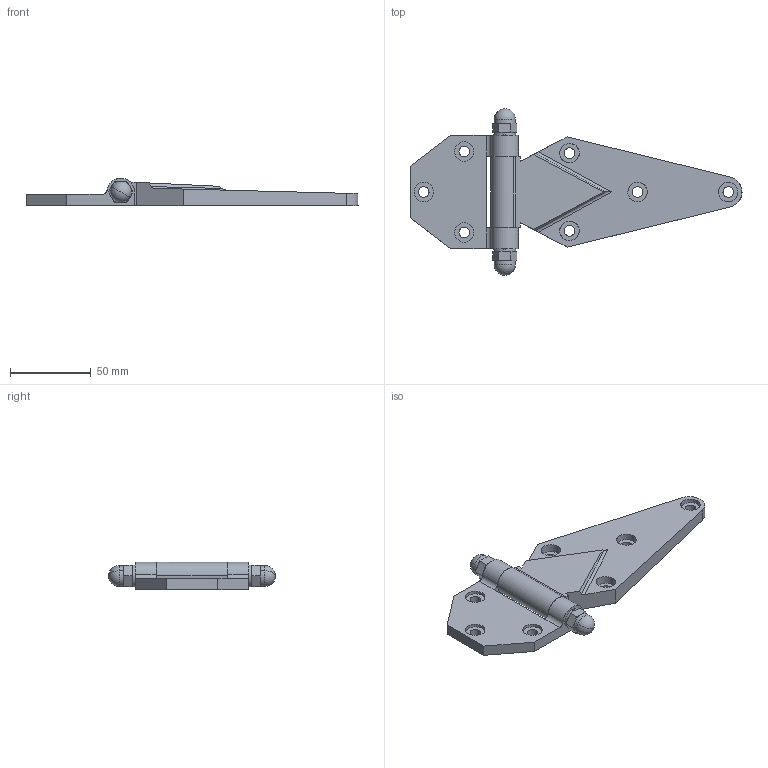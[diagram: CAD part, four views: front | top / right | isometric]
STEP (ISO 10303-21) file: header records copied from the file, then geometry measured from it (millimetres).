
FILE_DESCRIPTION (( 'STEP AP203' ), '1' );
FILE_NAME ('XG02-129-1.STEP', '2023-12-22T10:13:03', ( '' ), ( '' ), 'SwSTEP 2.0', 'SolidWorks 2020', '' );
FILE_SCHEMA (( 'CONFIG_CONTROL_DESIGN' ));
Length unit declared in the file: millimetre
Products named in the file (1): XG02-129-1
Bounding box: 205 x 103 x 17 mm (x, y, z)
Volume: 57536.9 mm3; surface area: 38906.5 mm2
Topology: 7 solids, 7 shells, 368 faces, 888 edges, 525 vertices
Faces by surface type: cylinder 165, plane 105, sphere 37, bspline 29, cone 24, torus 8
Entity records: 12298 total; most frequent: CARTESIAN_POINT 4068, DIRECTION 1720, ORIENTED_EDGE 1694, EDGE_CURVE 847, AXIS2_PLACEMENT_3D 681, VERTEX_POINT 511, EDGE_LOOP 406, ADVANCED_FACE 368
